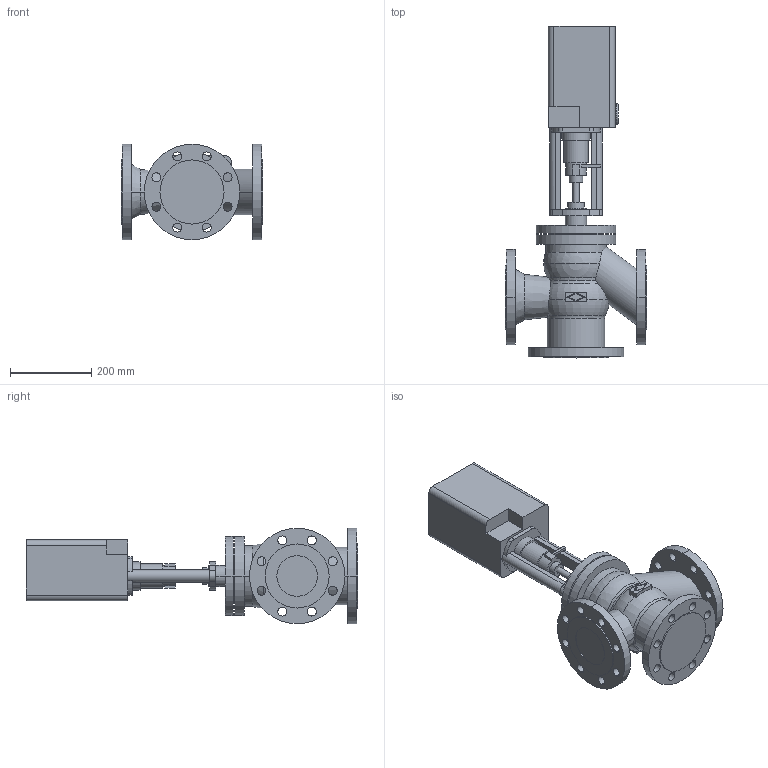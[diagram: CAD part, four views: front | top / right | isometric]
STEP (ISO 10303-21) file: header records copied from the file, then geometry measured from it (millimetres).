
FILE_DESCRIPTION(('OneSpaceDesigner STEP Export'),'2;1');
FILE_NAME('c000000396.stp','2006-09-19T11:48:24',(''),(''),'OneSpace Designer STEP processor for AP214 (Solid Model)','OneSpace Designer 13.20A 18-Aug-2005 (C) CoCreate Software GmbH','');
FILE_SCHEMA(('AUTOMOTIVE_DESIGN { 1 0 10303 214 1 1 1 1 }'));
Length unit declared in the file: millimetre
Products named in the file (2): 1; 2
Bounding box: 350 x 818.5 x 235 mm (x, y, z)
Volume: 17318916.9 mm3; surface area: 853258.9 mm2
Topology: 2 solids, 2 shells, 218 faces, 566 edges, 372 vertices
Faces by surface type: cylinder 112, plane 86, torus 12, sphere 4, cone 4
Entity records: 6192 total; most frequent: CARTESIAN_POINT 1214, ORIENTED_EDGE 1124, DIRECTION 899, EDGE_CURVE 562, VERTEX_POINT 372, AXIS2_PLACEMENT_3D 321, EDGE_LOOP 290, VECTOR 257
